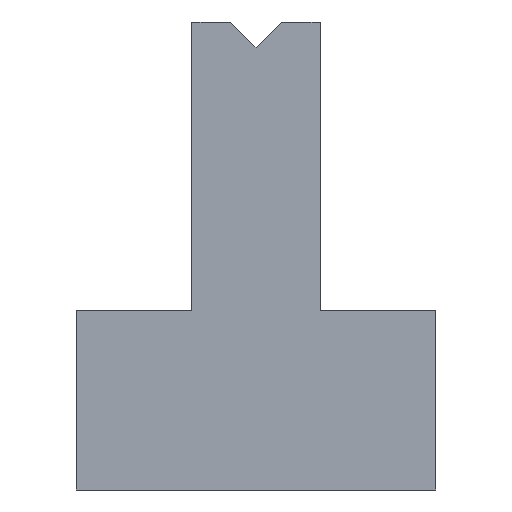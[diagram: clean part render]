
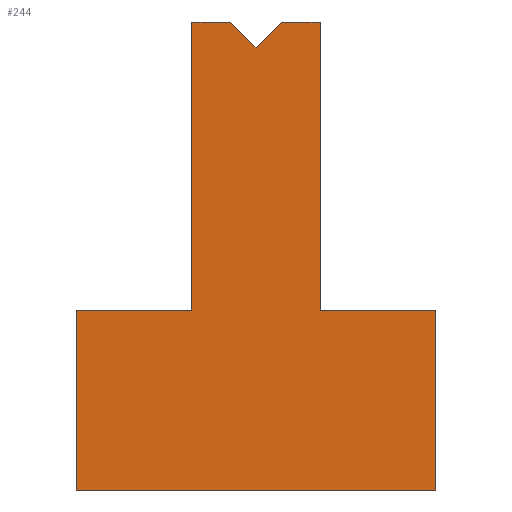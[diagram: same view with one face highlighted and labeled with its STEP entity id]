
A CAD part, front view. The second image highlights one B-rep face of the part: STEP entity #244.
In plain terms, the highlighted planar face has unit normal (0, -1, 0).
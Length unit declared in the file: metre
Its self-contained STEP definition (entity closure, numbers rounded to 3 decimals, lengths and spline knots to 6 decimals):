
#43=ORIENTED_EDGE('',*,*,#90,.F.);
#44=ORIENTED_EDGE('',*,*,#99,.T.);
#45=ORIENTED_EDGE('',*,*,#97,.F.);
#46=ORIENTED_EDGE('',*,*,#100,.T.);
#47=ORIENTED_EDGE('',*,*,#101,.T.);
#48=ORIENTED_EDGE('',*,*,#102,.F.);
#49=ORIENTED_EDGE('',*,*,#103,.F.);
#50=ORIENTED_EDGE('',*,*,#104,.T.);
#51=ORIENTED_EDGE('',*,*,#105,.F.);
#52=ORIENTED_EDGE('',*,*,#94,.T.);
#53=ORIENTED_EDGE('',*,*,#95,.F.);
#90=EDGE_CURVE('',#122,#123,#145,.F.);
#94=EDGE_CURVE('',#124,#125,#149,.F.);
#95=EDGE_CURVE('',#123,#125,#150,.F.);
#97=EDGE_CURVE('',#126,#127,#152,.F.);
#99=EDGE_CURVE('',#122,#127,#154,.T.);
#100=EDGE_CURVE('',#126,#128,#155,.F.);
#101=EDGE_CURVE('',#128,#129,#156,.T.);
#102=EDGE_CURVE('',#130,#129,#157,.T.);
#103=EDGE_CURVE('',#131,#130,#158,.T.);
#104=EDGE_CURVE('',#131,#132,#159,.T.);
#105=EDGE_CURVE('',#124,#132,#160,.F.);
#122=VERTEX_POINT('',#356);
#123=VERTEX_POINT('',#358);
#124=VERTEX_POINT('',#362);
#125=VERTEX_POINT('',#364);
#126=VERTEX_POINT('',#370);
#127=VERTEX_POINT('',#372);
#128=VERTEX_POINT('',#378);
#129=VERTEX_POINT('',#380);
#130=VERTEX_POINT('',#382);
#131=VERTEX_POINT('',#384);
#132=VERTEX_POINT('',#386);
#145=LINE('',#357,#178);
#149=LINE('',#365,#182);
#150=LINE('',#367,#183);
#152=LINE('',#371,#185);
#154=LINE('',#375,#187);
#155=LINE('',#377,#188);
#156=LINE('',#379,#189);
#157=LINE('',#381,#190);
#158=LINE('',#383,#191);
#159=LINE('',#385,#192);
#160=LINE('',#387,#193);
#178=VECTOR('',#287,1.);
#182=VECTOR('',#293,1.);
#183=VECTOR('',#296,1.);
#185=VECTOR('',#300,1.);
#187=VECTOR('',#304,1.);
#188=VECTOR('',#307,1.);
#189=VECTOR('',#308,1.);
#190=VECTOR('',#309,1.);
#191=VECTOR('',#310,1.);
#192=VECTOR('',#311,1.);
#193=VECTOR('',#312,1.);
#205=EDGE_LOOP('',(#43,#44,#45,#46,#47,#48,#49,#50,#51,#52,#53));
#218=FACE_BOUND('',#205,.T.);
#231=PLANE('',#262);
#244=ADVANCED_FACE('',(#218),#231,.T.);
#262=AXIS2_PLACEMENT_3D('',#376,#305,#306);
#287=DIRECTION('',(1.,0.,0.));
#293=DIRECTION('',(1.,0.,0.));
#296=DIRECTION('',(0.,0.,-1.));
#300=DIRECTION('',(-1.,0.,0.));
#304=DIRECTION('',(0.,0.,1.));
#305=DIRECTION('',(0.,-1.,0.));
#306=DIRECTION('',(-1.,0.,0.));
#307=DIRECTION('',(0.,0.,-1.));
#308=DIRECTION('',(-1.,0.,0.));
#309=DIRECTION('',(0.707,0.,0.707));
#310=DIRECTION('',(0.707,0.,-0.707));
#311=DIRECTION('',(-1.,0.,0.));
#312=DIRECTION('',(0.,0.,-1.));
#356=CARTESIAN_POINT('',(0.024302,0.023006,0.002995));
#357=CARTESIAN_POINT('',(0.021502,0.023006,0.002995));
#358=CARTESIAN_POINT('',(0.018702,0.023006,0.002995));
#362=CARTESIAN_POINT('',(0.020502,0.023006,0.005795));
#364=CARTESIAN_POINT('',(0.018702,0.023006,0.005795));
#365=CARTESIAN_POINT('',(0.020502,0.023006,0.005795));
#367=CARTESIAN_POINT('',(0.018702,0.023006,0.002995));
#370=CARTESIAN_POINT('',(0.022502,0.023006,0.005795));
#371=CARTESIAN_POINT('',(0.022502,0.023006,0.005795));
#372=CARTESIAN_POINT('',(0.024302,0.023006,0.005795));
#375=CARTESIAN_POINT('',(0.024302,0.023006,0.002995));
#376=CARTESIAN_POINT('',(0.022502,0.023006,0.002995));
#377=CARTESIAN_POINT('',(0.022502,0.023006,0.005795));
#378=CARTESIAN_POINT('',(0.022502,0.023006,0.010295));
#379=CARTESIAN_POINT('',(0.022502,0.023006,0.010295));
#380=CARTESIAN_POINT('',(0.021902,0.023006,0.010295));
#381=CARTESIAN_POINT('',(0.021502,0.023006,0.009895));
#382=CARTESIAN_POINT('',(0.021502,0.023006,0.009895));
#383=CARTESIAN_POINT('',(0.021102,0.023006,0.010295));
#384=CARTESIAN_POINT('',(0.021102,0.023006,0.010295));
#385=CARTESIAN_POINT('',(0.022502,0.023006,0.010295));
#386=CARTESIAN_POINT('',(0.020502,0.023006,0.010295));
#387=CARTESIAN_POINT('',(0.020502,0.023006,0.005795));
